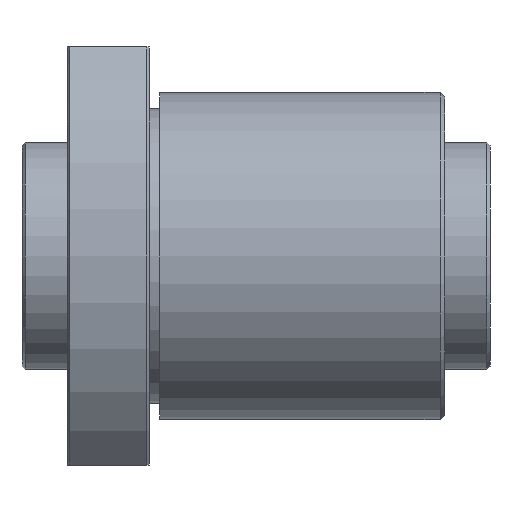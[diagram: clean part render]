
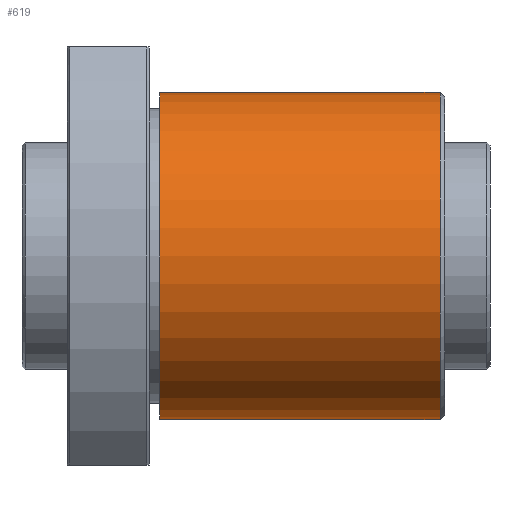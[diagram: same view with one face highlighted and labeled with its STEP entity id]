
A CAD part, front view. The second image highlights one B-rep face of the part: STEP entity #619.
In plain terms, the highlighted cylindrical face has radius 36 mm (diameter 72 mm), a full revolution.
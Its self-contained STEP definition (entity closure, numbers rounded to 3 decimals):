
#61=CYLINDRICAL_SURFACE('',#724,36.);
#152=ORIENTED_EDGE('',*,*,#270,.T.);
#153=ORIENTED_EDGE('',*,*,#269,.F.);
#269=EDGE_CURVE('',#328,#328,#377,.T.);
#270=EDGE_CURVE('',#329,#329,#378,.T.);
#328=VERTEX_POINT('',#1137);
#329=VERTEX_POINT('',#1140);
#377=CIRCLE('',#723,36.);
#378=CIRCLE('',#725,36.);
#435=EDGE_LOOP('',(#152));
#436=EDGE_LOOP('',(#153));
#531=FACE_BOUND('',#435,.T.);
#532=FACE_BOUND('',#436,.T.);
#619=ADVANCED_FACE('',(#531,#532),#61,.T.);
#723=AXIS2_PLACEMENT_3D('',#1136,#878,#879);
#724=AXIS2_PLACEMENT_3D('',#1138,#880,#881);
#725=AXIS2_PLACEMENT_3D('',#1139,#882,#883);
#878=DIRECTION('',(1.,0.,0.));
#879=DIRECTION('',(0.,0.,-1.));
#880=DIRECTION('',(1.,0.,0.));
#881=DIRECTION('',(0.,0.,-1.));
#882=DIRECTION('',(1.,0.,0.));
#883=DIRECTION('',(0.,0.,-1.));
#1136=CARTESIAN_POINT('',(82.,0.,0.));
#1137=CARTESIAN_POINT('',(82.,0.,-36.));
#1138=CARTESIAN_POINT('',(50.,0.,0.));
#1139=CARTESIAN_POINT('',(20.3,0.,0.));
#1140=CARTESIAN_POINT('',(20.3,0.,-36.));
